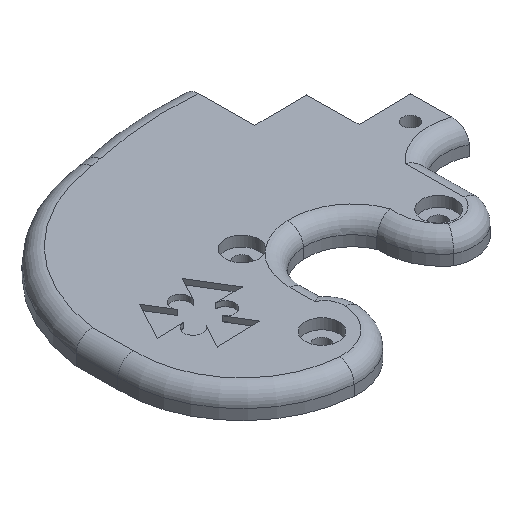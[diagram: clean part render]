
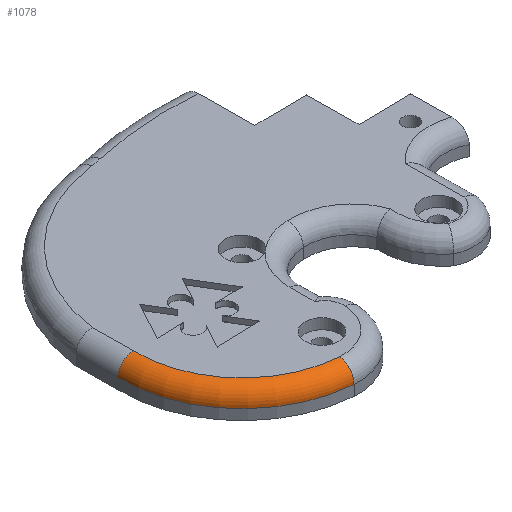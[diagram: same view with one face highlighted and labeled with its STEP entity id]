
A CAD part, isometric view. The second image highlights one B-rep face of the part: STEP entity #1078.
In plain terms, the highlighted toroidal (fillet/blend) face has major radius 20.137 mm and minor radius 3 mm.
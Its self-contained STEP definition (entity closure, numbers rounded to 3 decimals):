
#349=CARTESIAN_POINT('',(-27.377,-6.676,5.0));
#350=VERTEX_POINT('',#349);
#357=CARTESIAN_POINT('',(-8.586,-27.465,5.0));
#358=VERTEX_POINT('',#357);
#359=CARTESIAN_POINT('',(-7.252,-7.373,5.0));
#360=DIRECTION('',(0.0,0.0,-1.0));
#361=DIRECTION('',(-0.741,-0.672,0.0));
#362=AXIS2_PLACEMENT_3D('',#359,#360,#361);
#363=CIRCLE('',#362,20.137);
#364=EDGE_CURVE('',#358,#350,#363,.T.);
#1035=CARTESIAN_POINT('',(-7.252,-7.373,2.0));
#1036=DIRECTION('',(0.0,0.0,1.0));
#1037=DIRECTION('',(1.0,0.0,0.0));
#1038=AXIS2_PLACEMENT_3D('',#1035,#1036,#1037);
#1039=TOROIDAL_SURFACE('',#1038,20.137,3.0);
#1040=CARTESIAN_POINT('',(-30.377,-6.647,2.0));
#1041=VERTEX_POINT('',#1040);
#1042=CARTESIAN_POINT('',(-8.785,-30.458,2.0));
#1043=VERTEX_POINT('',#1042);
#1044=CARTESIAN_POINT('',(-7.252,-7.373,2.0));
#1045=DIRECTION('',(0.0,0.0,1.0));
#1046=DIRECTION('',(-0.741,-0.672,0.0));
#1047=AXIS2_PLACEMENT_3D('',#1044,#1045,#1046);
#1048=CIRCLE('',#1047,23.137);
#1049=EDGE_CURVE('',#1041,#1043,#1048,.T.);
#1050=ORIENTED_EDGE('',*,*,#1049,.T.);
#1051=CARTESIAN_POINT('',(-8.586,-27.465,2.0));
#1052=DIRECTION('',(-0.998,0.066,0.0));
#1053=DIRECTION('',(-0.066,-0.998,0.0));
#1054=AXIS2_PLACEMENT_3D('',#1051,#1052,#1053);
#1055=CIRCLE('',#1054,3.);
#1056=EDGE_CURVE('',#1043,#358,#1055,.T.);
#1057=ORIENTED_EDGE('',*,*,#1056,.T.);
#1058=ORIENTED_EDGE('',*,*,#364,.T.);
#1059=CARTESIAN_POINT('',(-27.377,-6.676,5.0));
#1060=CARTESIAN_POINT('',(-27.381,-6.676,5.));
#1061=CARTESIAN_POINT('',(-27.385,-6.676,5.));
#1062=CARTESIAN_POINT('',(-27.726,-6.672,4.999));
#1063=CARTESIAN_POINT('',(-28.06,-6.669,4.94));
#1064=CARTESIAN_POINT('',(-28.695,-6.663,4.716));
#1065=CARTESIAN_POINT('',(-28.991,-6.66,4.551));
#1066=CARTESIAN_POINT('',(-29.558,-6.655,4.096));
#1067=CARTESIAN_POINT('',(-29.812,-6.652,3.795));
#1068=CARTESIAN_POINT('',(-30.191,-6.649,3.112));
#1069=CARTESIAN_POINT('',(-30.312,-6.648,2.736));
#1070=CARTESIAN_POINT('',(-30.37,-6.647,2.233));
#1071=CARTESIAN_POINT('',(-30.377,-6.647,2.116));
#1072=CARTESIAN_POINT('',(-30.377,-6.647,2.));
#1073=B_SPLINE_CURVE_WITH_KNOTS('',3,(#1059,#1060,#1061,#1062,#1063,#1064,#1065,#1066,#1067,#1068,#1069,#1070,#1071,#1072),.UNSPECIFIED.,.F.,.U.,(4,2,2,2,2,2,4),(-0.692,-0.691,-0.59,-0.489,-0.372,-0.255,-0.22),.UNSPECIFIED.);
#1074=EDGE_CURVE('',#350,#1041,#1073,.T.);
#1075=ORIENTED_EDGE('',*,*,#1074,.T.);
#1076=EDGE_LOOP('',(#1050,#1057,#1058,#1075));
#1077=FACE_OUTER_BOUND('',#1076,.T.);
#1078=ADVANCED_FACE('',(#1077),#1039,.T.);
